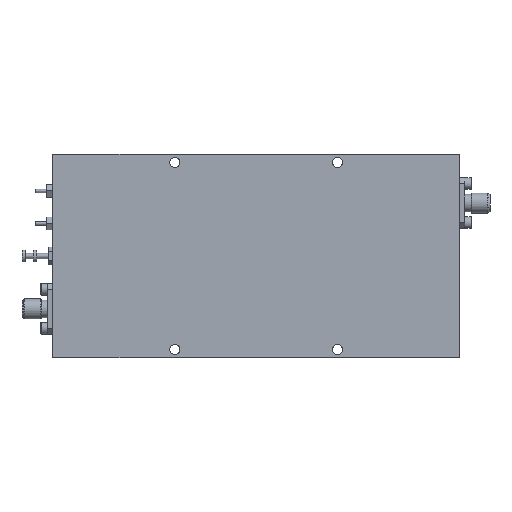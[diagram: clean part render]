
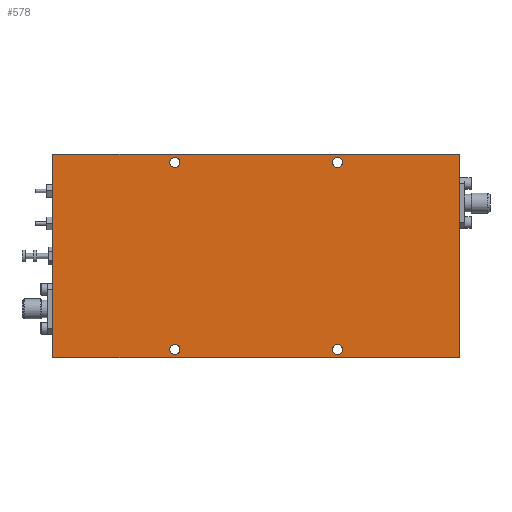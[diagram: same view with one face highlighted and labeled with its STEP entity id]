
A CAD part, top view. The second image highlights one B-rep face of the part: STEP entity #578.
In plain terms, the highlighted planar face has unit normal (0, 0, 1).
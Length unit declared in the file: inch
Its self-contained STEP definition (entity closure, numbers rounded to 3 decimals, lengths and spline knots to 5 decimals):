
#172=CARTESIAN_POINT('',(1.0625,-1.15,0.513));
#173=VERTEX_POINT('',#172);
#174=CARTESIAN_POINT('',(1.0,-1.15,0.513));
#175=DIRECTION('',(0.0,0.0,-1.0));
#176=DIRECTION('',(1.0,0.0,0.0));
#177=AXIS2_PLACEMENT_3D('',#174,#175,#176);
#178=CIRCLE('',#177,0.0625);
#179=EDGE_CURVE('',#173,#173,#178,.T.);
#200=CARTESIAN_POINT('',(-0.9375,1.15,0.513));
#201=VERTEX_POINT('',#200);
#202=CARTESIAN_POINT('',(-1.0,1.15,0.513));
#203=DIRECTION('',(0.0,0.0,-1.0));
#204=DIRECTION('',(1.0,0.0,0.0));
#205=AXIS2_PLACEMENT_3D('',#202,#203,#204);
#206=CIRCLE('',#205,0.0625);
#207=EDGE_CURVE('',#201,#201,#206,.T.);
#228=CARTESIAN_POINT('',(1.0625,1.15,0.513));
#229=VERTEX_POINT('',#228);
#230=CARTESIAN_POINT('',(1.0,1.15,0.513));
#231=DIRECTION('',(0.0,0.0,-1.0));
#232=DIRECTION('',(1.0,0.0,0.0));
#233=AXIS2_PLACEMENT_3D('',#230,#231,#232);
#234=CIRCLE('',#233,0.0625);
#235=EDGE_CURVE('',#229,#229,#234,.T.);
#256=CARTESIAN_POINT('',(-0.9375,-1.15,0.513));
#257=VERTEX_POINT('',#256);
#258=CARTESIAN_POINT('',(-1.0,-1.15,0.513));
#259=DIRECTION('',(0.0,0.0,-1.0));
#260=DIRECTION('',(1.0,0.0,0.0));
#261=AXIS2_PLACEMENT_3D('',#258,#259,#260);
#262=CIRCLE('',#261,0.0625);
#263=EDGE_CURVE('',#257,#257,#262,.T.);
#431=CARTESIAN_POINT('',(2.5,1.25,0.513));
#432=VERTEX_POINT('',#431);
#439=CARTESIAN_POINT('',(2.5,-1.25,0.513));
#440=VERTEX_POINT('',#439);
#441=CARTESIAN_POINT('',(2.5,-1.25,0.513));
#442=DIRECTION('',(0.0,1.0,0.0));
#443=VECTOR('',#442,2.5);
#444=LINE('',#441,#443);
#445=EDGE_CURVE('',#440,#432,#444,.T.);
#473=CARTESIAN_POINT('',(-2.5,-1.25,0.513));
#474=VERTEX_POINT('',#473);
#475=CARTESIAN_POINT('',(-2.5,-1.25,0.513));
#476=DIRECTION('',(1.0,0.0,0.0));
#477=VECTOR('',#476,5.0);
#478=LINE('',#475,#477);
#479=EDGE_CURVE('',#474,#440,#478,.T.);
#504=CARTESIAN_POINT('',(-2.5,1.25,0.513));
#505=VERTEX_POINT('',#504);
#506=CARTESIAN_POINT('',(-2.5,1.25,0.513));
#507=DIRECTION('',(0.0,-1.0,0.0));
#508=VECTOR('',#507,2.5);
#509=LINE('',#506,#508);
#510=EDGE_CURVE('',#505,#474,#509,.T.);
#545=CARTESIAN_POINT('',(2.5,1.25,0.513));
#546=DIRECTION('',(-1.0,0.0,0.0));
#547=VECTOR('',#546,5.0);
#548=LINE('',#545,#547);
#549=EDGE_CURVE('',#432,#505,#548,.T.);
#555=CARTESIAN_POINT('',(0.0,0.0,0.513));
#556=DIRECTION('',(0.0,0.0,1.0));
#557=DIRECTION('',(1.0,0.0,0.0));
#558=AXIS2_PLACEMENT_3D('',#555,#556,#557);
#559=PLANE('',#558);
#560=ORIENTED_EDGE('',*,*,#549,.T.);
#561=ORIENTED_EDGE('',*,*,#510,.T.);
#562=ORIENTED_EDGE('',*,*,#479,.T.);
#563=ORIENTED_EDGE('',*,*,#445,.T.);
#564=EDGE_LOOP('',(#560,#561,#562,#563));
#565=FACE_OUTER_BOUND('',#564,.T.);
#566=ORIENTED_EDGE('',*,*,#179,.T.);
#567=EDGE_LOOP('',(#566));
#568=FACE_BOUND('',#567,.T.);
#569=ORIENTED_EDGE('',*,*,#207,.T.);
#570=EDGE_LOOP('',(#569));
#571=FACE_BOUND('',#570,.T.);
#572=ORIENTED_EDGE('',*,*,#235,.T.);
#573=EDGE_LOOP('',(#572));
#574=FACE_BOUND('',#573,.T.);
#575=ORIENTED_EDGE('',*,*,#263,.T.);
#576=EDGE_LOOP('',(#575));
#577=FACE_BOUND('',#576,.T.);
#578=ADVANCED_FACE('',(#565,#568,#571,#574,#577),#559,.T.);
